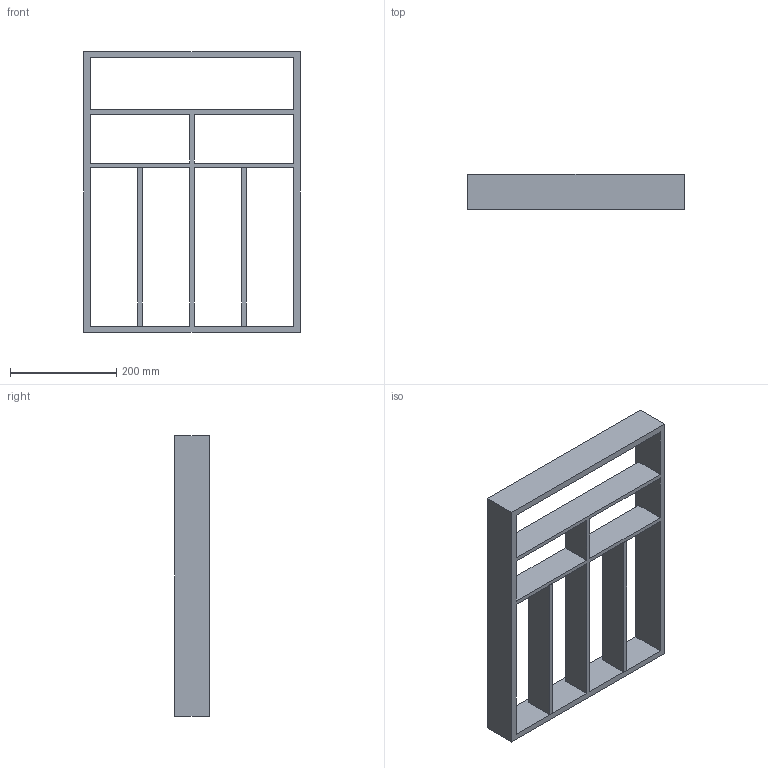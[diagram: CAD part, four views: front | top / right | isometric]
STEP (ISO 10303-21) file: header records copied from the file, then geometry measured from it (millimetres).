
FILE_DESCRIPTION (( 'STEP AP214' ), '1' );
FILE_NAME ('Vario Besteck NL550_B500_16 mm_Buche.step', '2010-11-04T08:33:07', ( 'grass' ), ( '' ), 'SwSTEP 2.0', 'SolidWorks 2010', '' );
FILE_SCHEMA (( 'AUTOMOTIVE_DESIGN' ));
Length unit declared in the file: millimetre
Products named in the file (1): Vario Besteck NL550_B500_16 mm_Buche
Bounding box: 408 x 65 x 529 mm (x, y, z)
Volume: 2225472 mm3; surface area: 507790 mm2
Topology: 3 solids, 3 shells, 34 faces, 96 edges, 64 vertices
Faces by surface type: plane 34
Entity records: 1152 total; most frequent: CARTESIAN_POINT 195, ORIENTED_EDGE 192, DIRECTION 166, LINE 96, VECTOR 96, EDGE_CURVE 96, VERTEX_POINT 64, EDGE_LOOP 40
